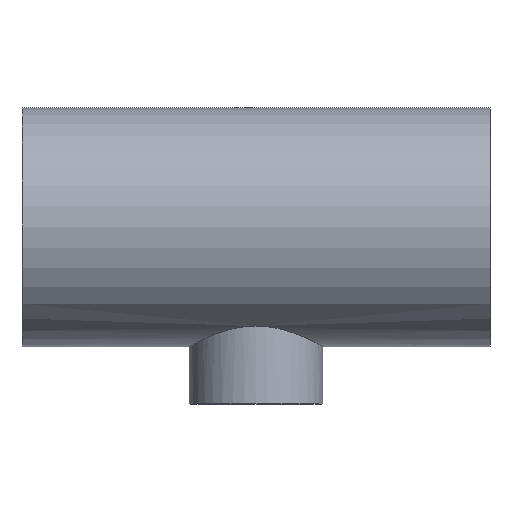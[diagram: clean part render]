
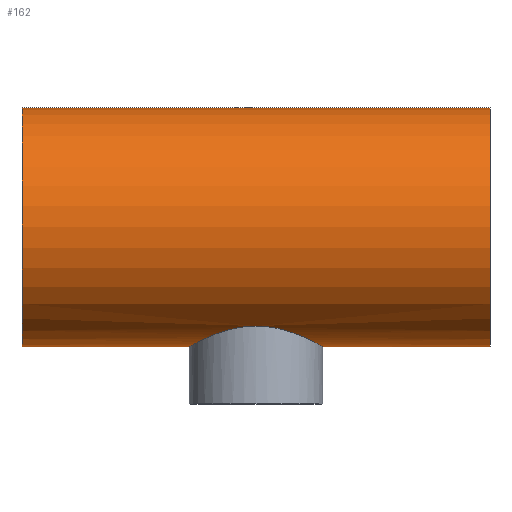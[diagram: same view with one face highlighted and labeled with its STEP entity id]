
A CAD part, top view. The second image highlights one B-rep face of the part: STEP entity #162.
In plain terms, the highlighted cylindrical face has radius 25 mm (diameter 50 mm), a full revolution.
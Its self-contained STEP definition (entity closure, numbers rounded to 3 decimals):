
#16=B_SPLINE_CURVE_WITH_KNOTS('',3,(#312,#313,#314,#315,#316,#317,#318,
#319,#320,#321,#322,#323,#324,#325,#326,#327,#328,#329,#330,#331,#332,#333,
#334,#335,#336,#337,#338,#339,#340,#341,#342,#343,#344,#345,#346,#347,#348,
#349,#350,#351,#352,#353,#354,#355,#356,#357,#358,#359,#360,#361),
 .UNSPECIFIED.,.T.,.F.,(4,2,2,2,2,2,2,2,2,2,2,2,2,2,2,2,2,2,2,2,2,2,2,2,
4),(0.,0.271,0.543,1.085,1.626,
1.896,2.166,2.436,2.706,3.246,
3.789,4.06,4.332,4.603,4.874,
5.417,5.957,6.227,6.497,6.767,
7.038,7.578,8.12,8.392,8.663),
 .UNSPECIFIED.);
#32=FACE_BOUND('',#69,.T.);
#33=FACE_BOUND('',#70,.T.);
#46=FACE_OUTER_BOUND('',#68,.T.);
#68=EDGE_LOOP('',(#136));
#69=EDGE_LOOP('',(#137));
#70=EDGE_LOOP('',(#138));
#88=CIRCLE('',#187,25.);
#89=CIRCLE('',#188,25.);
#101=VERTEX_POINT('',#309);
#102=VERTEX_POINT('',#311);
#103=VERTEX_POINT('',#362);
#115=EDGE_CURVE('',#101,#101,#88,.T.);
#116=EDGE_CURVE('',#102,#102,#16,.T.);
#117=EDGE_CURVE('',#103,#103,#89,.T.);
#136=ORIENTED_EDGE('',*,*,#115,.F.);
#137=ORIENTED_EDGE('',*,*,#116,.T.);
#138=ORIENTED_EDGE('',*,*,#117,.F.);
#152=CYLINDRICAL_SURFACE('',#186,25.);
#162=ADVANCED_FACE('',(#46,#32,#33),#152,.T.);
#186=AXIS2_PLACEMENT_3D('',#308,#230,#231);
#187=AXIS2_PLACEMENT_3D('',#310,#232,#233);
#188=AXIS2_PLACEMENT_3D('',#363,#234,#235);
#230=DIRECTION('center_axis',(1.,0.,0.));
#231=DIRECTION('ref_axis',(0.,-1.,0.));
#232=DIRECTION('center_axis',(-1.,0.,0.));
#233=DIRECTION('ref_axis',(0.,-1.,0.));
#234=DIRECTION('center_axis',(1.,0.,0.));
#235=DIRECTION('ref_axis',(0.,-1.,0.));
#308=CARTESIAN_POINT('Origin',(0.,0.,0.));
#309=CARTESIAN_POINT('',(-49.,25.,0.));
#310=CARTESIAN_POINT('Origin',(-49.,0.,0.));
#311=CARTESIAN_POINT('',(0.,-20.712,14.));
#312=CARTESIAN_POINT('Ctrl Pts',(0.,-20.712,14.));
#313=CARTESIAN_POINT('Ctrl Pts',(0.905,-20.712,14.));
#314=CARTESIAN_POINT('Ctrl Pts',(1.831,-20.773,13.911));
#315=CARTESIAN_POINT('Ctrl Pts',(3.657,-21.013,13.546));
#316=CARTESIAN_POINT('Ctrl Pts',(4.557,-21.191,13.27));
#317=CARTESIAN_POINT('Ctrl Pts',(7.13,-21.842,12.191));
#318=CARTESIAN_POINT('Ctrl Pts',(8.676,-22.429,11.123));
#319=CARTESIAN_POINT('Ctrl Pts',(11.117,-23.482,8.682));
#320=CARTESIAN_POINT('Ctrl Pts',(12.19,-24.025,7.134));
#321=CARTESIAN_POINT('Ctrl Pts',(13.271,-24.597,4.555));
#322=CARTESIAN_POINT('Ctrl Pts',(13.547,-24.749,3.652));
#323=CARTESIAN_POINT('Ctrl Pts',(13.912,-24.95,1.825));
#324=CARTESIAN_POINT('Ctrl Pts',(14.,-25.,0.9));
#325=CARTESIAN_POINT('Ctrl Pts',(14.,-25.,-0.9));
#326=CARTESIAN_POINT('Ctrl Pts',(13.912,-24.95,-1.825));
#327=CARTESIAN_POINT('Ctrl Pts',(13.547,-24.749,-3.652));
#328=CARTESIAN_POINT('Ctrl Pts',(13.271,-24.597,-4.555));
#329=CARTESIAN_POINT('Ctrl Pts',(12.19,-24.025,-7.134));
#330=CARTESIAN_POINT('Ctrl Pts',(11.117,-23.482,-8.682));
#331=CARTESIAN_POINT('Ctrl Pts',(8.676,-22.429,-11.123));
#332=CARTESIAN_POINT('Ctrl Pts',(7.13,-21.842,-12.191));
#333=CARTESIAN_POINT('Ctrl Pts',(4.557,-21.191,-13.27));
#334=CARTESIAN_POINT('Ctrl Pts',(3.657,-21.013,-13.546));
#335=CARTESIAN_POINT('Ctrl Pts',(1.831,-20.773,-13.911));
#336=CARTESIAN_POINT('Ctrl Pts',(0.905,-20.712,-14.));
#337=CARTESIAN_POINT('Ctrl Pts',(-0.905,-20.712,-14.));
#338=CARTESIAN_POINT('Ctrl Pts',(-1.831,-20.773,-13.911));
#339=CARTESIAN_POINT('Ctrl Pts',(-3.657,-21.013,-13.546));
#340=CARTESIAN_POINT('Ctrl Pts',(-4.557,-21.191,-13.27));
#341=CARTESIAN_POINT('Ctrl Pts',(-7.13,-21.842,-12.191));
#342=CARTESIAN_POINT('Ctrl Pts',(-8.676,-22.429,-11.123));
#343=CARTESIAN_POINT('Ctrl Pts',(-11.117,-23.482,-8.682));
#344=CARTESIAN_POINT('Ctrl Pts',(-12.19,-24.025,-7.134));
#345=CARTESIAN_POINT('Ctrl Pts',(-13.271,-24.597,-4.555));
#346=CARTESIAN_POINT('Ctrl Pts',(-13.547,-24.749,-3.652));
#347=CARTESIAN_POINT('Ctrl Pts',(-13.912,-24.95,-1.825));
#348=CARTESIAN_POINT('Ctrl Pts',(-14.,-25.,-0.9));
#349=CARTESIAN_POINT('Ctrl Pts',(-14.,-25.,0.9));
#350=CARTESIAN_POINT('Ctrl Pts',(-13.912,-24.95,1.825));
#351=CARTESIAN_POINT('Ctrl Pts',(-13.547,-24.749,3.652));
#352=CARTESIAN_POINT('Ctrl Pts',(-13.271,-24.597,4.555));
#353=CARTESIAN_POINT('Ctrl Pts',(-12.19,-24.025,7.134));
#354=CARTESIAN_POINT('Ctrl Pts',(-11.117,-23.482,8.682));
#355=CARTESIAN_POINT('Ctrl Pts',(-8.676,-22.429,11.123));
#356=CARTESIAN_POINT('Ctrl Pts',(-7.13,-21.842,12.191));
#357=CARTESIAN_POINT('Ctrl Pts',(-4.557,-21.191,13.27));
#358=CARTESIAN_POINT('Ctrl Pts',(-3.657,-21.013,13.546));
#359=CARTESIAN_POINT('Ctrl Pts',(-1.831,-20.773,13.911));
#360=CARTESIAN_POINT('Ctrl Pts',(-0.905,-20.712,14.));
#361=CARTESIAN_POINT('Ctrl Pts',(0.,-20.712,
14.));
#362=CARTESIAN_POINT('',(49.,25.,0.));
#363=CARTESIAN_POINT('Origin',(49.,0.,0.));
